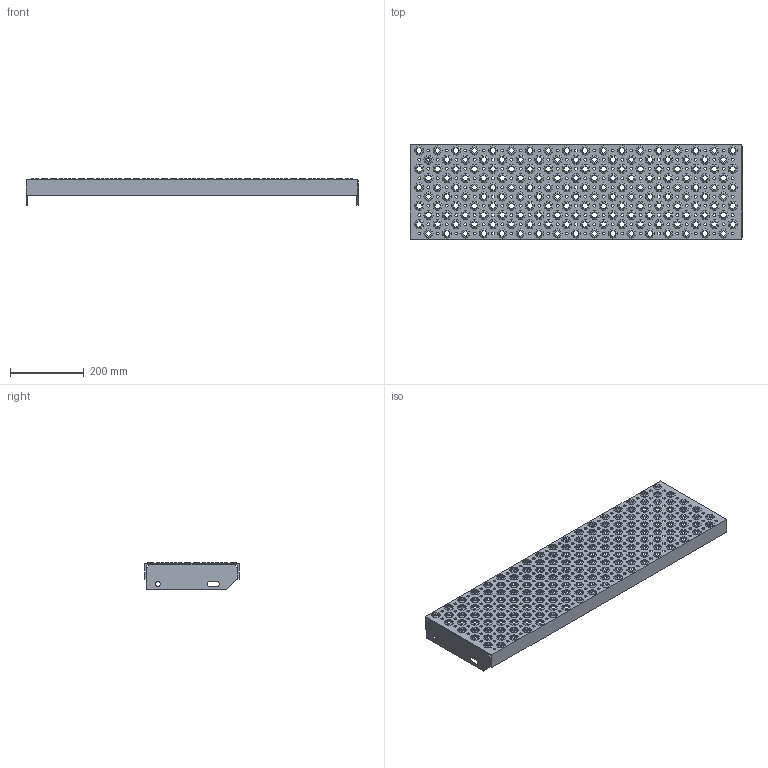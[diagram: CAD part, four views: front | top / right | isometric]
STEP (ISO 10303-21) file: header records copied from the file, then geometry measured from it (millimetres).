
FILE_DESCRIPTION(('Open CASCADE Model'),'2;1');
FILE_NAME('Open CASCADE Shape Model','2020-06-30T11:39:38',('Author'),( 'Open CASCADE'),'Open CASCADE STEP processor 7.2','Open CASCADE 7.2' ,'Unknown');
FILE_SCHEMA(('AUTOMOTIVE_DESIGN { 1 0 10303 214 1 1 1 1 }'));
Length unit declared in the file: millimetre
Products named in the file (7371): Open CASCADE STEP translator 7.2 1; Open CASCADE STEP translator 7.2 2; Open CASCADE STEP translator 7.2 3; Open CASCADE STEP translator 7.2 3.1; Open CASCADE STEP translator 7.2 3.2; Open CASCADE STEP translator 7.2 3.3; Open CASCADE STEP translator 7.2 3.4; Open CASCADE STEP translator 7.2 3.5; Open CASCADE STEP translator 7.2 3.6; Open CASCADE STEP translator 7.2 3.7; Open CASCADE STEP translator 7.2 3.8; Open CASCADE STEP translator 7.2 3.9; Open CASCADE STEP translator 7.2 3.10; Open CASCADE STEP translator 7.2 3.11; Open CASCADE STEP translator 7.2 3.12; Open CASCADE STEP translator 7.2 3.13; Open CASCADE STEP translator 7.2 3.14; Open CASCADE STEP translator 7.2 3.15; Open CASCADE STEP translator 7.2 3.16; Open CASCADE STEP translator 7.2 3.17; Open CASCADE STEP translator 7.2 3.18; Open CASCADE STEP translator 7.2 3.19; Open CASCADE STEP translator 7.2 3.20; Open CASCADE STEP translator 7.2 3.21; Open CASCADE STEP translator 7.2 3.22; Open CASCADE STEP translator 7.2 3.23; Open CASCADE STEP translator 7.2 3.24; Open CASCADE STEP translator 7.2 3.25; Open CASCADE STEP translator 7.2 3.26; Open CASCADE STEP translator 7.2 3.27; Open CASCADE STEP translator 7.2 3.28; Open CASCADE STEP translator 7.2 3.29; Open CASCADE STEP translator 7.2 3.30; Open CASCADE STEP translator 7.2 3.31; Open CASCADE STEP translator 7.2 3.32; Open CASCADE STEP translator 7.2 3.33; Open CASCADE STEP translator 7.2 3.34; Open CASCADE STEP translator 7.2 3.35; Open CASCADE STEP translator 7.2 3.36; Open CASCADE STEP translator 7.2 3.37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
Assembly tree (7368 placements, depth 2):
  Open CASCADE STEP translator 7.2 1
  Open CASCADE STEP translator 7.2 2
  Open CASCADE STEP translator 7.2 3
    Open CASCADE STEP translator 7.2 3.1
    Open CASCADE STEP translator 7.2 3.2
    Open CASCADE STEP translator 7.2 3.3
    Open CASCADE STEP translator 7.2 3.4
    Open CASCADE STEP translator 7.2 3.5
    Open CASCADE STEP translator 7.2 3.6
    Open CASCADE STEP translator 7.2 3.7
    Open CASCADE STEP translator 7.2 3.8
    Open CASCADE STEP translator 7.2 3.9
    Open CASCADE STEP translator 7.2 3.10
    Open CASCADE STEP translator 7.2 3.11
    Open CASCADE STEP translator 7.2 3.12
    Open CASCADE STEP translator 7.2 3.13
    Open CASCADE STEP translator 7.2 3.14
    Open CASCADE STEP translator 7.2 3.15
    Open CASCADE STEP translator 7.2 3.16
    Open CASCADE STEP translator 7.2 3.17
    Open CASCADE STEP translator 7.2 3.18
    Open CASCADE STEP translator 7.2 3.19
    Open CASCADE STEP translator 7.2 3.20
    Open CASCADE STEP translator 7.2 3.21
    Open CASCADE STEP translator 7.2 3.22
    Open CASCADE STEP translator 7.2 3.23
    Open CASCADE STEP translator 7.2 3.24
    Open CASCADE STEP translator 7.2 3.25
    Open CASCADE STEP translator 7.2 3.26
    Open CASCADE STEP translator 7.2 3.27
    Open CASCADE STEP translator 7.2 3.28
    Open CASCADE STEP translator 7.2 3.29
    Open CASCADE STEP translator 7.2 3.30
    Open CASCADE STEP translator 7.2 3.31
    Open CASCADE STEP translator 7.2 3.32
    Open CASCADE STEP translator 7.2 3.33
    Open CASCADE STEP translator 7.2 3.34
    Open CASCADE STEP translator 7.2 3.35
    Open CASCADE STEP translator 7.2 3.36
    Open CASCADE STEP translator 7.2 3.37
    Open CASCADE STEP translator 7.2 3.38
    Open CASCADE STEP translator 7.2 3.39
    Open CASCADE STEP translator 7.2 3.40
    Open CASCADE STEP translator 7.2 3.41
    Open CASCADE STEP translator 7.2 3.42
    Open CASCADE STEP translator 7.2 3.43
    Open CASCADE STEP translator 7.2 3.44
    Open CASCADE STEP translator 7.2 3.45
    Open CASCADE STEP translator 7.2 3.46
    Open CASCADE STEP translator 7.2 3.47
    Open CASCADE STEP translator 7.2 3.48
    Open CASCADE STEP translator 7.2 3.49
    Open CASCADE STEP translator 7.2 3.50
    Open CASCADE STEP translator 7.2 3.51
    Open CASCADE STEP translator 7.2 3.52
    Open CASCADE STEP translator 7.2 3.53
    Open CASCADE STEP translator 7.2 3.54
    Open CASCADE STEP translator 7.2 3.55
    Open CASCADE STEP translator 7.2 3.56
    Open CASCADE STEP translator 7.2 3.57
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Bounding box: 900 x 255 x 73 mm (x, y, z)
Volume: 93645.2 mm3; surface area: 779712.9 mm2
Topology: 2 solids, 7370 shells, 7396 faces, 42168 edges, 42144 vertices
Faces by surface type: plane 7390, cylinder 6
Full cylindrical faces by diameter (mm): 13 x2
Entity records: 841660 total; most frequent: CARTESIAN_POINT 141365, DIRECTION 113922, LINE 84360, VECTOR 84360, ORIENTED_EDGE 42240, PCURVE 42240, DEFINITIONAL_REPRESENTATION 42240, EDGE_CURVE 42168
